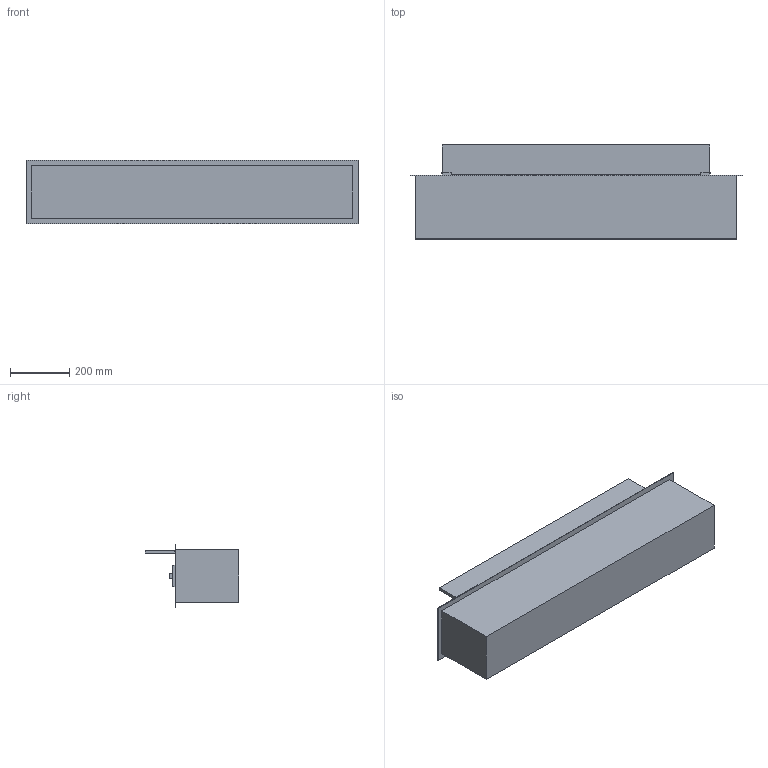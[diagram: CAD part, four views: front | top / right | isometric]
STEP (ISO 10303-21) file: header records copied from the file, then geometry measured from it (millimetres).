
FILE_DESCRIPTION (( 'STEP AP203' ), '1' );
FILE_NAME ('Hybrid mist 1120.STEP', '2024-03-13T10:10:32', ( '' ), ( '' ), 'SwSTEP 2.0', 'SolidWorks 2023', '' );
FILE_SCHEMA (( 'CONFIG_CONTROL_DESIGN' ));
Length unit declared in the file: millimetre
Products named in the file (1): Hybrid mist 1120
Bounding box: 1120 x 317 x 215 mm (x, y, z)
Volume: 43086166 mm3; surface area: 1719494 mm2
Topology: 8 solids, 8 shells, 77 faces, 180 edges, 120 vertices
Faces by surface type: plane 77
Entity records: 2229 total; most frequent: CARTESIAN_POINT 378, ORIENTED_EDGE 360, DIRECTION 336, EDGE_CURVE 180, LINE 180, VECTOR 180, VERTEX_POINT 120, EDGE_LOOP 84
